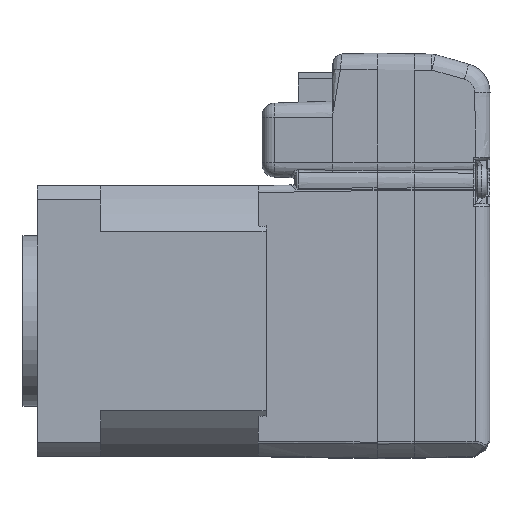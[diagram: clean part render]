
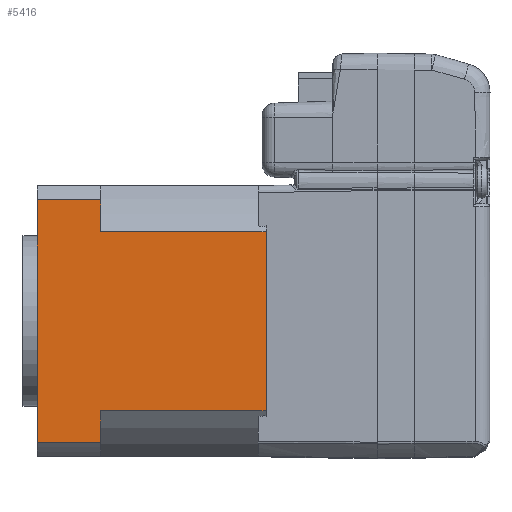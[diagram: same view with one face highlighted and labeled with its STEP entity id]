
A CAD part, left-side view. The second image highlights one B-rep face of the part: STEP entity #5416.
In plain terms, the highlighted planar face has unit normal (-1, 0, 0).
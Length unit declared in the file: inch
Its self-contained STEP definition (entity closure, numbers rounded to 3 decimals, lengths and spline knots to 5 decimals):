
#2928=EDGE_CURVE('MDI 14, Plus, 12 Pin JST[1]',#8558,#7881,#8559,.F.);
#3228=EDGE_CURVE('MDI 14, Plus, 12 Pin JST[1]',#9014,#8656,#9015,.F.);
#3237=EDGE_CURVE('MDI 14, Plus, 12 Pin JST[1]',#9028,#9029,#9030,.T.);
#3951=EDGE_CURVE('MDI 14, Plus, 12 Pin JST[1]',#8656,#9029,#10099,.T.);
#4814=EDGE_CURVE('MDI 14, Plus, 12 Pin JST[1]',#11277,#8898,#11278,.T.);
#5083=EDGE_CURVE('MDI 14, Plus, 12 Pin JST[1]',#11277,#7881,#11629,.T.);
#5416=ADVANCED_FACE('MDI 14, Plus, 12 Pin JST[1]',(#12059),#12060,.T.);
#6279=EDGE_CURVE('MDI 14, Plus, 12 Pin JST[1]',#8558,#9028,#13099,.T.);
#6319=EDGE_CURVE('MDI 14, Plus, 12 Pin JST[1]',#9014,#8898,#13147,.T.);
#7881=VERTEX_POINT('',#15522);
#8558=VERTEX_POINT('',#17956);
#8559=LINE('',#17957,#17958);
#8656=VERTEX_POINT('',#18533);
#8898=VERTEX_POINT('',#19890);
#9014=VERTEX_POINT('',#20327);
#9015=LINE('',#20328,#20329);
#9028=VERTEX_POINT('',#20350);
#9029=VERTEX_POINT('',#20351);
#9030=LINE('',#20352,#20353);
#10099=LINE('',#25525,#25526);
#11277=VERTEX_POINT('',#31615);
#11278=LINE('',#31616,#31617);
#11629=LINE('',#33575,#33576);
#12059=FACE_OUTER_BOUND('',#36707,.T.);
#12060=PLANE('',#36708);
#13099=LINE('',#41479,#41480);
#13147=LINE('',#41660,#41661);
#15522=CARTESIAN_POINT('',(-1.54316,2.39016,0.40277));
#17956=CARTESIAN_POINT('',(-1.54316,2.39016,0.56347));
#17957=CARTESIAN_POINT('',(-1.54316,2.39016,0.25529));
#17958=VECTOR('',#49848,1.0);
#18533=CARTESIAN_POINT('',(-1.54316,2.39016,-0.66924));
#19890=CARTESIAN_POINT('',(-1.54316,1.54966,-0.50854));
#20327=CARTESIAN_POINT('',(-1.54316,2.39016,-0.50854));
#20328=CARTESIAN_POINT('',(-1.54316,2.39016,0.25529));
#20329=VECTOR('',#50237,1.0);
#20350=CARTESIAN_POINT('',(-1.54316,2.71116,0.56347));
#20351=CARTESIAN_POINT('',(-1.54316,2.71116,-0.66924));
#20352=CARTESIAN_POINT('',(-1.54316,2.71116,0.56347));
#20353=VECTOR('',#50251,1.0);
#25525=CARTESIAN_POINT('',(-1.54316,2.45016,-0.66924));
#25526=VECTOR('',#51226,1.0);
#31615=CARTESIAN_POINT('',(-1.54316,1.54966,0.40277));
#31616=CARTESIAN_POINT('',(-1.54316,1.54966,-0.36375));
#31617=VECTOR('',#52376,1.0);
#33575=CARTESIAN_POINT('',(-1.54316,1.74466,0.40277));
#33576=VECTOR('',#52729,1.0);
#36707=EDGE_LOOP('',(#53229,#53230,#53231,#53232,#53233,#53234,#53235,#53236));
#36708=AXIS2_PLACEMENT_3D('',#53237,#53238,#53239);
#41479=CARTESIAN_POINT('',(-1.54316,2.45016,0.56347));
#41480=VECTOR('',#54267,1.0);
#41660=CARTESIAN_POINT('',(-1.54316,1.74466,-0.50854));
#41661=VECTOR('',#54310,1.0);
#49848=DIRECTION('',(0.0,0.,1.0));
#50237=DIRECTION('',(0.0,0.,1.0));
#50251=DIRECTION('',(0.0,0.0,-1.0));
#51226=DIRECTION('',(0.0,1.0,0.0));
#52376=DIRECTION('',(0.0,0.0,-1.0));
#52729=DIRECTION('',(0.0,1.0,0.0));
#53229=ORIENTED_EDGE('',*,*,#3228,.F.);
#53230=ORIENTED_EDGE('',*,*,#6319,.T.);
#53231=ORIENTED_EDGE('',*,*,#4814,.F.);
#53232=ORIENTED_EDGE('',*,*,#5083,.T.);
#53233=ORIENTED_EDGE('',*,*,#2928,.F.);
#53234=ORIENTED_EDGE('',*,*,#6279,.T.);
#53235=ORIENTED_EDGE('',*,*,#3237,.T.);
#53236=ORIENTED_EDGE('',*,*,#3951,.F.);
#53237=CARTESIAN_POINT('',(-1.54316,2.00953,0.37018));
#53238=DIRECTION('',(-1.0,0.0,0.0));
#53239=DIRECTION('',(0.0,0.0,1.0));
#54267=DIRECTION('',(0.0,1.0,0.0));
#54310=DIRECTION('',(-0.0,-1.0,-0.0));
